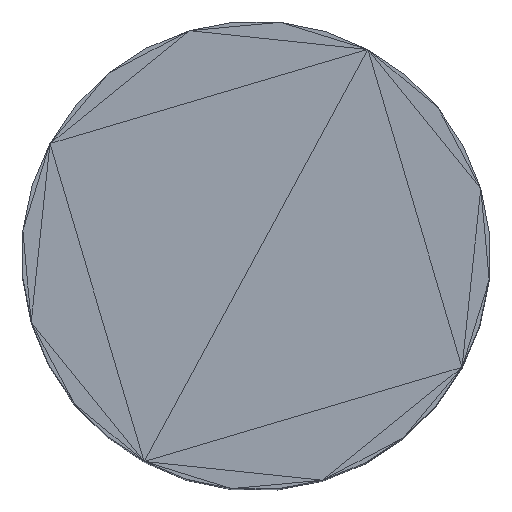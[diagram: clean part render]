
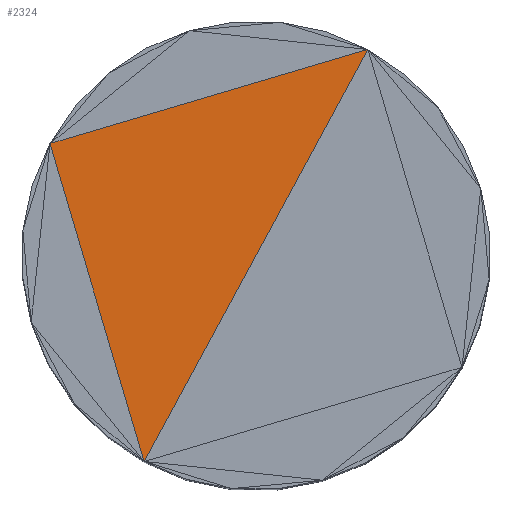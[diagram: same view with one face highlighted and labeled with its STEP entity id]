
A CAD part, top view. The second image highlights one B-rep face of the part: STEP entity #2324.
In plain terms, the highlighted planar face has unit normal (0, 0, 1).
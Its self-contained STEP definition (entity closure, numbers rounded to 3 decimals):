
#1999 = VERTEX_POINT('',#2000);
#2000 = CARTESIAN_POINT('',(-0.237,0.353,0.734));
#2088 = PLANE('',#2089);
#2089 = AXIS2_PLACEMENT_3D('',#2090,#2091,#2092);
#2090 = CARTESIAN_POINT('',(-0.239,0.353,0.734));
#2091 = DIRECTION('',(0.,0.,1.));
#2092 = DIRECTION('',(0.,1.,0.));
#2104 = EDGE_CURVE('',#2105,#1999,#2107,.T.);
#2105 = VERTEX_POINT('',#2106);
#2106 = CARTESIAN_POINT('',(-0.241,0.352,0.734));
#2107 = SURFACE_CURVE('',#2108,(#2112,#2119),.PCURVE_S1.);
#2108 = LINE('',#2109,#2110);
#2109 = CARTESIAN_POINT('',(-0.241,0.352,0.734));
#2110 = VECTOR('',#2111,1.);
#2111 = DIRECTION('',(0.959,0.284,0.));
#2112 = PCURVE('',#2088,#2113);
#2113 = DEFINITIONAL_REPRESENTATION('',(#2114),#2118);
#2114 = LINE('',#2115,#2116);
#2115 = CARTESIAN_POINT('',(-0.001,0.002));
#2116 = VECTOR('',#2117,1.);
#2117 = DIRECTION('',(0.284,-0.959));
#2118 = ( GEOMETRIC_REPRESENTATION_CONTEXT(2) 
PARAMETRIC_REPRESENTATION_CONTEXT() REPRESENTATION_CONTEXT('2D SPACE',''
  ) );
#2119 = PCURVE('',#2120,#2125);
#2120 = PLANE('',#2121);
#2121 = AXIS2_PLACEMENT_3D('',#2122,#2123,#2124);
#2122 = CARTESIAN_POINT('',(-0.239,0.351,0.734));
#2123 = DIRECTION('',(0.,0.,1.));
#2124 = DIRECTION('',(1.,0.,-0.));
#2125 = DEFINITIONAL_REPRESENTATION('',(#2126),#2129);
#2126 = B_SPLINE_CURVE_WITH_KNOTS('',1,(#2127,#2128),.UNSPECIFIED.,.F.,
  .F.,(2,2),(0.,0.004),.PIECEWISE_BEZIER_KNOTS.);
#2127 = CARTESIAN_POINT('',(-0.002,0.001));
#2128 = CARTESIAN_POINT('',(0.002,0.002));
#2129 = ( GEOMETRIC_REPRESENTATION_CONTEXT(2) 
PARAMETRIC_REPRESENTATION_CONTEXT() REPRESENTATION_CONTEXT('2D SPACE',''
  ) );
#2324 = ADVANCED_FACE('',(#2325),#2120,.T.);
#2325 = FACE_BOUND('',#2326,.T.);
#2326 = EDGE_LOOP('',(#2327,#2354,#2355));
#2327 = ORIENTED_EDGE('',*,*,#2328,.T.);
#2328 = EDGE_CURVE('',#2329,#1999,#2331,.T.);
#2329 = VERTEX_POINT('',#2330);
#2330 = CARTESIAN_POINT('',(-0.24,0.348,0.734));
#2331 = SURFACE_CURVE('',#2332,(#2336,#2343),.PCURVE_S1.);
#2332 = LINE('',#2333,#2334);
#2333 = CARTESIAN_POINT('',(-0.24,0.348,0.734));
#2334 = VECTOR('',#2335,1.);
#2335 = DIRECTION('',(0.477,0.879,0.));
#2336 = PCURVE('',#2120,#2337);
#2337 = DEFINITIONAL_REPRESENTATION('',(#2338),#2342);
#2338 = LINE('',#2339,#2340);
#2339 = CARTESIAN_POINT('',(-0.001,-0.003));
#2340 = VECTOR('',#2341,1.);
#2341 = DIRECTION('',(0.477,0.879));
#2342 = ( GEOMETRIC_REPRESENTATION_CONTEXT(2) 
PARAMETRIC_REPRESENTATION_CONTEXT() REPRESENTATION_CONTEXT('2D SPACE',''
  ) );
#2343 = PCURVE('',#2344,#2349);
#2344 = PLANE('',#2345);
#2345 = AXIS2_PLACEMENT_3D('',#2346,#2347,#2348);
#2346 = CARTESIAN_POINT('',(-0.238,0.35,0.734));
#2347 = DIRECTION('',(0.,0.,1.));
#2348 = DIRECTION('',(1.,0.,0.));
#2349 = DEFINITIONAL_REPRESENTATION('',(#2350),#2353);
#2350 = B_SPLINE_CURVE_WITH_KNOTS('',1,(#2351,#2352),.UNSPECIFIED.,.F.,
  .F.,(2,2),(0.,0.006),.PIECEWISE_BEZIER_KNOTS.);
#2351 = CARTESIAN_POINT('',(-0.002,-0.002));
#2352 = CARTESIAN_POINT('',(0.001,0.003));
#2353 = ( GEOMETRIC_REPRESENTATION_CONTEXT(2) 
PARAMETRIC_REPRESENTATION_CONTEXT() REPRESENTATION_CONTEXT('2D SPACE',''
  ) );
#2354 = ORIENTED_EDGE('',*,*,#2104,.F.);
#2355 = ORIENTED_EDGE('',*,*,#2356,.F.);
#2356 = EDGE_CURVE('',#2329,#2105,#2357,.T.);
#2357 = SURFACE_CURVE('',#2358,(#2362,#2368),.PCURVE_S1.);
#2358 = LINE('',#2359,#2360);
#2359 = CARTESIAN_POINT('',(-0.24,0.348,0.734));
#2360 = VECTOR('',#2361,1.);
#2361 = DIRECTION('',(-0.284,0.959,0.));
#2362 = PCURVE('',#2120,#2363);
#2363 = DEFINITIONAL_REPRESENTATION('',(#2364),#2367);
#2364 = B_SPLINE_CURVE_WITH_KNOTS('',1,(#2365,#2366),.UNSPECIFIED.,.F.,
  .F.,(2,2),(0.,0.004),.PIECEWISE_BEZIER_KNOTS.);
#2365 = CARTESIAN_POINT('',(-0.001,-0.003));
#2366 = CARTESIAN_POINT('',(-0.002,0.001));
#2367 = ( GEOMETRIC_REPRESENTATION_CONTEXT(2) 
PARAMETRIC_REPRESENTATION_CONTEXT() REPRESENTATION_CONTEXT('2D SPACE',''
  ) );
#2368 = PCURVE('',#2369,#2374);
#2369 = PLANE('',#2370);
#2370 = AXIS2_PLACEMENT_3D('',#2371,#2372,#2373);
#2371 = CARTESIAN_POINT('',(-0.24,0.35,0.734));
#2372 = DIRECTION('',(0.,0.,1.));
#2373 = DIRECTION('',(0.,1.,0.));
#2374 = DEFINITIONAL_REPRESENTATION('',(#2375),#2379);
#2375 = LINE('',#2376,#2377);
#2376 = CARTESIAN_POINT('',(-0.002,-0.001));
#2377 = VECTOR('',#2378,1.);
#2378 = DIRECTION('',(0.959,0.284));
#2379 = ( GEOMETRIC_REPRESENTATION_CONTEXT(2) 
PARAMETRIC_REPRESENTATION_CONTEXT() REPRESENTATION_CONTEXT('2D SPACE',''
  ) );
